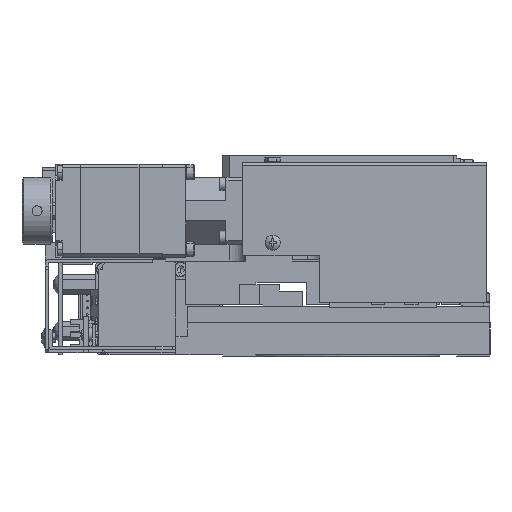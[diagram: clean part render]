
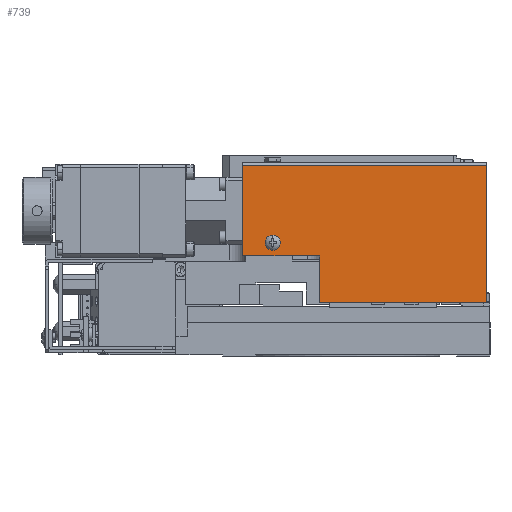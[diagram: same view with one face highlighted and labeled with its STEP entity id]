
A CAD part, left-side view. The second image highlights one B-rep face of the part: STEP entity #739.
In plain terms, the highlighted planar face has unit normal (-1, 0, 0).
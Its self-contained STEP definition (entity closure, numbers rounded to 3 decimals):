
#739=ADVANCED_FACE('',(#8483,#8484),#8482,.F.);
#8482=PLANE('',#36872);
#8483=FACE_OUTER_BOUND('',#36873,.T.);
#8484=FACE_BOUND('',#36874,.T.);
#36869=CARTESIAN_POINT('',(-72.,36.3,61.1));
#36870=DIRECTION('',(1.,0.,0.));
#36871=DIRECTION('',(0.,-1.,0.));
#36872=AXIS2_PLACEMENT_3D('',#36869,#36870,#36871);
#36873=EDGE_LOOP('',(#54168,#54169,#54170,#54171,#54172,#54173));
#36874=EDGE_LOOP('',(#54174,#54175));
#54168=ORIENTED_EDGE('',*,*,#68344,.F.);
#54169=ORIENTED_EDGE('',*,*,#68329,.T.);
#54170=ORIENTED_EDGE('',*,*,#68121,.F.);
#54171=ORIENTED_EDGE('',*,*,#68333,.F.);
#54172=ORIENTED_EDGE('',*,*,#68336,.F.);
#54173=ORIENTED_EDGE('',*,*,#68351,.F.);
#54174=ORIENTED_EDGE('',*,*,#68352,.F.);
#54175=ORIENTED_EDGE('',*,*,#68353,.F.);
#68121=EDGE_CURVE('',#82574,#82581,#82582,.T.);
#68329=EDGE_CURVE('',#83936,#82581,#83937,.T.);
#68333=EDGE_CURVE('',#83956,#82574,#83963,.T.);
#68336=EDGE_CURVE('',#83976,#83956,#83983,.T.);
#68344=EDGE_CURVE('',#83936,#84033,#84034,.T.);
#68351=EDGE_CURVE('',#84033,#83976,#84079,.T.);
#68352=EDGE_CURVE('',#84085,#84086,#84087,.T.);
#68353=EDGE_CURVE('',#84086,#84085,#84093,.T.);
#82574=VERTEX_POINT('',#130000);
#82581=VERTEX_POINT('',#130004);
#82582=LINE('',#130005,#130006);
#83936=VERTEX_POINT('',#130748);
#83937=LINE('',#130749,#130750);
#83956=VERTEX_POINT('',#130760);
#83963=LINE('',#130764,#130765);
#83976=VERTEX_POINT('',#130771);
#83983=LINE('',#130775,#130776);
#84033=VERTEX_POINT('',#130802);
#84034=LINE('',#130803,#130804);
#84079=LINE('',#130827,#130828);
#84085=VERTEX_POINT('',#130830);
#84086=VERTEX_POINT('',#130831);
#84087=CIRCLE('',#130835,2.25);
#84093=CIRCLE('',#130839,2.25);
#130000=CARTESIAN_POINT('',(-72.,29.,30.));
#130004=CARTESIAN_POINT('',(-72.,29.,57.));
#130005=CARTESIAN_POINT('',(-72.,29.,30.));
#130006=VECTOR('',#130007,27.);
#130007=DIRECTION('',(0.,0.,1.));
#130748=CARTESIAN_POINT('',(-72.,-44.,57.));
#130749=CARTESIAN_POINT('',(-72.,-44.,57.));
#130750=VECTOR('',#130751,73.);
#130751=DIRECTION('',(0.,1.,0.));
#130760=CARTESIAN_POINT('',(-72.,6.,30.));
#130764=CARTESIAN_POINT('',(-72.,6.,30.));
#130765=VECTOR('',#130766,23.);
#130766=DIRECTION('',(0.,1.,0.));
#130771=CARTESIAN_POINT('',(-72.,6.,16.));
#130775=CARTESIAN_POINT('',(-72.,6.,16.));
#130776=VECTOR('',#130777,14.);
#130777=DIRECTION('',(0.,0.,1.));
#130802=CARTESIAN_POINT('',(-72.,-44.,16.));
#130803=CARTESIAN_POINT('',(-72.,-44.,57.));
#130804=VECTOR('',#130805,41.);
#130805=DIRECTION('',(0.,0.,-1.));
#130827=CARTESIAN_POINT('',(-72.,-44.,16.));
#130828=VECTOR('',#130829,50.);
#130829=DIRECTION('',(0.,1.,0.));
#130830=CARTESIAN_POINT('',(-72.,20.,31.75));
#130831=CARTESIAN_POINT('',(-72.,20.,36.25));
#130832=CARTESIAN_POINT('',(-72.,20.,34.));
#130833=DIRECTION('',(-1.,0.,0.));
#130834=DIRECTION('',(0.,0.,1.));
#130835=AXIS2_PLACEMENT_3D('',#130832,#130833,#130834);
#130836=CARTESIAN_POINT('',(-72.,20.,34.));
#130837=DIRECTION('',(-1.,0.,0.));
#130838=DIRECTION('',(0.,0.,1.));
#130839=AXIS2_PLACEMENT_3D('',#130836,#130837,#130838);
